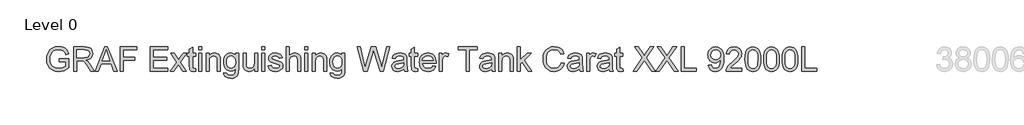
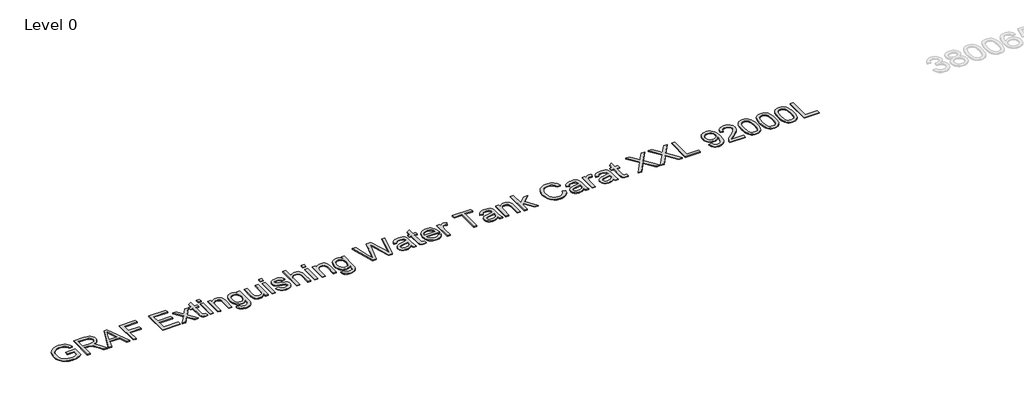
# One storey, part 27 of 37: 1 proxy.
"""IFC4 building model written with IfcOpenShell, lengths in millimetres."""

from ifc_helpers import new_model, si_unit, origin, origin_with_axes, place, context, project, spatial, polyline, outline, extrude, element, save

model = new_model("IFC4")

# Units and contexts
model_context = context("Model", 3, world=origin())
ifc_project = project(units=[si_unit("LENGTHUNIT", "METRE", prefix="MILLI")], contexts=[model_context])

# Site, building, storey
site = spatial("IfcSite", under=ifc_project)
building = spatial("IfcBuilding", under=site)
storey = spatial("IfcBuildingStorey", under=building, Name="Level 0", Elevation=0.0)

# Proxy
placement = place(None, origin())
element("IfcBuildingElementProxy", 1, Name="300mm Arial", ObjectType="300mm Arial", at=placement, inside=storey, context=model_context, shape_type="SweptSolid", body=[
    extrude(outline(polyline([(16759.0059613, -17583.2545597), (16759.0059613, -17545.5834434), (16881.4370893, -17545.5834434), (16881.4370893, -17658.2289103), (16851.6846329, -17678.9222726), (16820.9940775, -17693.7663111), (16789.4389993, -17702.7058436), (16757.0929749, -17705.6856877), (16714.8325307, -17700.949207), (16676.6371825, -17686.739765), (16644.9073605, -17663.5540022), (16622.0434945, -17631.8885595), (16608.2203285, -17593.9047435), (16603.6126065, -17551.7638609), (16608.2019344, -17509.3194757), (16621.9699181, -17469.8365406), (16644.3463404, -17436.717964), (16674.7609844, -17413.3666543), (16711.8067013, -17399.5158972), (16754.0763425, -17394.8989782), (16785.1071888, -17397.5753197), (16813.0110382, -17405.6043443), (16836.5095006, -17418.4066377), (16854.3241862, -17435.4027859), (16867.5035587, -17457.4113262), (16877.0960817, -17485.2507962), (16842.3680214, -17495.0364573), (16834.6149083, -17475.1800266), (16825.1879322, -17460.1980323), (16812.7167326, -17448.9040551), (16795.830949, -17440.1116754), (16775.6986068, -17434.4554897), (16753.4877313, -17432.5700945), (16727.4876713, -17434.6026425), (16705.2584018, -17440.7002866), (16686.8826961, -17450.0996716), (16672.4433278, -17462.0374423), (16653.0559467, -17491.0633317), (16644.2267788, -17519.50061), (16641.2837228, -17550.2187566), (16644.824587, -17586.2436009), (16655.4471796, -17615.8856927), (16672.8296039, -17638.9334997), (16696.6499631, -17655.1754898), (16724.5262213, -17664.804801), (16754.0763425, -17668.0145714), (16780.168373, -17665.5957473), (16805.6166101, -17658.3392749), (16827.7171209, -17648.3420817), (16843.765973, -17637.701095), (16843.765973, -17583.2545597), (16759.0059613, -17583.2545597)])), origin_with_axes(), (0.0, 0.0, 1.0), 10.0),
    extrude(outline(polyline([(16942.6526533, -17700.9767982), (16942.6526533, -17399.6078677), (17072.5149976, -17399.6078677), (17107.4178018, -17401.6404158), (17132.8108566, -17407.7380598), (17151.3705032, -17418.9952489), (17165.7730833, -17436.5064318), (17175.0161185, -17458.2206666), (17178.0971302, -17482.087011), (17172.9927675, -17511.7750881), (17157.6796794, -17536.3863935), (17146.0799003, -17546.4157764), (17131.6980135, -17554.4310054), (17094.5879173, -17564.4190016), (17115.9986494, -17580.532233), (17146.532855, -17619.3069952), (17196.7855355, -17700.9767982), (17153.0075781, -17700.9767982), (17113.7913574, -17638.5104354), (17085.4644438, -17597.1604991), (17065.5620278, -17577.6259652), (17047.6461747, -17570.4522663), (17025.7939842, -17569.1278911), (16980.3237696, -17569.1278911), (16980.3237696, -17700.9767982), (16942.6526533, -17700.9767982)]), holes=[polyline([(16980.3237696, -17531.4567748), (17064.6423229, -17531.4567748), (17088.8581552, -17530.1232026), (17107.6477281, -17526.1224859), (17121.7927908, -17519.1879103), (17132.0750926, -17509.0527613), (17138.3382835, -17496.7930938), (17140.4260139, -17483.4849626), (17136.4436913, -17465.109257), (17124.4967235, -17450.3020067), (17103.941317, -17440.5347397), (17074.1336783, -17437.278984), (16980.3237696, -17437.278984), (16980.3237696, -17531.4567748)])]), origin_with_axes(), (0.0, 0.0, 1.0), 10.0),
    extrude(outline(polyline([(17208.9256414, -17700.9767982), (17329.2230538, -17399.6078677), (17361.3023638, -17399.6078677), (17481.5997762, -17700.9767982), (17441.7949443, -17700.9767982), (17407.2876132, -17606.7990074), (17283.164228, -17606.7990074), (17248.7304732, -17700.9767982), (17208.9256414, -17700.9767982)]), holes=[polyline([(17296.996591, -17569.1278911), (17393.5288265, -17569.1278911), (17366.3791353, -17495.0364573), (17345.2627088, -17437.278984), (17326.500727, -17488.5617342), (17296.996591, -17569.1278911)])]), origin_with_axes(), (0.0, 0.0, 1.0), 10.0),
    extrude(outline(polyline([(17521.8460665, -17700.9767982), (17521.8460665, -17399.6078677), (17724.3283166, -17399.6078677), (17724.3283166, -17437.278984), (17559.5171828, -17437.278984), (17559.5171828, -17526.7478853), (17700.7838689, -17526.7478853), (17700.7838689, -17564.4190016), (17559.5171828, -17564.4190016), (17559.5171828, -17700.9767982), (17521.8460665, -17700.9767982)])), origin_with_axes(), (0.0, 0.0, 1.0), 10.0),
    extrude(outline(polyline([(17893.84834, -17700.9767982), (17893.84834, -17399.6078677), (18110.4572587, -17399.6078677), (18110.4572587, -17437.278984), (17931.5194563, -17437.278984), (17931.5194563, -17526.7478853), (18101.0394797, -17526.7478853), (18101.0394797, -17564.4190016), (17931.5194563, -17564.4190016), (17931.5194563, -17663.3056819), (18115.1661483, -17663.3056819), (18115.1661483, -17700.9767982), (17893.84834, -17700.9767982)])), origin_with_axes(), (0.0, 0.0, 1.0), 10.0),
    extrude(outline(polyline([(18143.4194855, -17700.9767982), (18223.9120661, -17589.7292828), (18148.1283751, -17479.6589899), (18193.4514369, -17479.6589899), (18230.0189072, -17532.6339972), (18247.0886318, -17557.6499729), (18261.877488, -17537.1957339), (18303.5217298, -17479.6589899), (18348.8447916, -17479.6589899), (18269.2351279, -17589.7292828), (18345.9017357, -17700.9767982), (18300.5786739, -17700.9767982), (18254.4462717, -17634.0958515), (18245.9849858, -17621.8821692), (18188.7425473, -17700.9767982), (18143.4194855, -17700.9767982)])), origin_with_axes(), (0.0, 0.0, 1.0), 10.0),
    extrude(outline(polyline([(18458.9150846, -17669.5596758), (18463.6239741, -17702.0804442), (18435.4442133, -17705.6856877), (18417.3628132, -17704.1221892), (18403.8799381, -17699.4316938), (18394.3517944, -17692.2028126), (18388.1345887, -17683.0241568), (18384.7132861, -17667.2604133), (18383.572852, -17640.276269), (18383.572852, -17517.3301062), (18355.3195147, -17517.3301062), (18355.3195147, -17479.6589899), (18383.572852, -17479.6589899), (18383.572852, -17425.8746422), (18421.2439683, -17403.7281461), (18421.2439683, -17479.6589899), (18458.9150846, -17479.6589899), (18458.9150846, -17517.3301062), (18421.2439683, -17517.3301062), (18421.2439683, -17639.172623), (18423.230531, -17658.5967923), (18429.668466, -17665.4761856), (18442.5075476, -17668.0145714), (18458.9150846, -17669.5596758)])), origin_with_axes(), (0.0, 0.0, 1.0), 10.0),
    extrude(outline(polyline([(18496.5862009, -17437.278984), (18496.5862009, -17399.6078677), (18534.2573172, -17399.6078677), (18534.2573172, -17437.278984), (18496.5862009, -17437.278984)])), origin_with_axes(), (0.0, 0.0, 1.0), 10.0),
    extrude(outline(polyline([(18496.5862009, -17700.9767982), (18496.5862009, -17479.6589899), (18534.2573172, -17479.6589899), (18534.2573172, -17700.9767982), (18496.5862009, -17700.9767982)])), origin_with_axes(), (0.0, 0.0, 1.0), 10.0),
    extrude(outline(polyline([(18590.7639916, -17700.9767982), (18590.7639916, -17479.6589899), (18628.435108, -17479.6589899), (18628.435108, -17510.5610775), (18641.5225099, -17494.981275), (18657.2402682, -17483.8528446), (18675.5883827, -17477.1757864), (18696.5668535, -17474.9501003), (18715.1356972, -17476.7435251), (18732.1410424, -17482.1237992), (18746.3228933, -17490.4195382), (18756.4212541, -17500.9593574), (18767.7152313, -17528.6608716), (18769.7017941, -17565.0811892), (18769.7017941, -17700.9767982), (18732.0306778, -17700.9767982), (18732.0306778, -17570.1579607), (18727.6896703, -17536.8278519), (18721.6839967, -17526.9042351), (18712.3489911, -17519.2063044), (18700.3836292, -17514.2674886), (18686.4868868, -17512.6212166), (18664.4231641, -17516.3184307), (18645.6151971, -17527.4100729), (18638.0989081, -17536.4645685), (18632.7301302, -17548.8391991), (18628.435108, -17583.5488653), (18628.435108, -17700.9767982), (18590.7639916, -17700.9767982)])), origin_with_axes(), (0.0, 0.0, 1.0), 10.0),
    extrude(outline(polyline([(18812.0817999, -17719.8123563), (18849.7529163, -17724.5212459), (18853.9099828, -17736.2934697), (18861.9665985, -17744.3868736), (18877.8039184, -17750.6776557), (18898.5340688, -17752.7745831), (18920.6437767, -17750.4017442), (18937.0881019, -17743.2832276), (18948.4924438, -17731.8788858), (18955.4822017, -17716.6485712), (18958.0573756, -17672.7234609), (18945.5217966, -17685.084296), (18931.5330838, -17693.9134639), (18916.091237, -17699.2109646), (18899.1962564, -17700.9767982), (18878.5419816, -17698.9212575), (18860.3571148, -17692.7546356), (18844.6416558, -17682.4769323), (18831.3956047, -17668.0881478), (18820.8856759, -17650.8252852), (18813.378584, -17631.9253477), (18808.8743288, -17611.3883353), (18807.3729104, -17589.214248), (18810.067646, -17558.7996041), (18818.1518529, -17530.8313754), (18831.3404224, -17507.1305779), (18849.3482461, -17489.5182274), (18871.5591215, -17478.5921321), (18897.3568464, -17474.9501003), (18914.9737955, -17477.0102395), (18930.9628667, -17483.190657), (18945.3240601, -17493.4913529), (18958.0573756, -17507.9123271), (18958.0573756, -17479.6589899), (18995.7284919, -17479.6589899), (18995.7284919, -17670.7368982), (18993.153318, -17714.8551464), (18985.4277961, -17743.908627), (18972.1196649, -17763.1764465), (18952.7966631, -17777.9377116), (18927.881855, -17787.3187024), (18897.7983048, -17790.4456994), (18862.7483477, -17786.0403125), (18835.148001, -17772.8241518), (18824.7530354, -17762.9028343), (18817.44368, -17750.7604292), (18813.2199349, -17736.3969365), (18812.0817999, -17719.8123563)]), holes=[polyline([(18845.0440267, -17586.6390741), (18849.0631375, -17621.1923905), (18861.1204699, -17644.9483703), (18879.2478552, -17658.716354), (18901.4771248, -17663.3056819), (18923.5408474, -17658.7439451), (18941.7602032, -17645.0587349), (18953.9830825, -17621.6062577), (18958.0573756, -17587.7427201), (18953.8635209, -17555.0839959), (18941.2819567, -17531.5671394), (18922.7958864, -17517.3576973), (18900.8885136, -17512.6212166), (18879.3766139, -17517.2841209), (18861.3411991, -17531.2728338), (18849.1183198, -17554.4402024), (18845.0440267, -17586.6390741)])]), origin_with_axes(), (0.0, 0.0, 1.0), 10.0),
    extrude(outline(polyline([(19193.5018525, -17700.9767982), (19193.5018525, -17662.9377999), (19179.8718246, -17681.6400008), (19163.9977165, -17694.9987158), (19145.8795283, -17703.0139447), (19125.5172598, -17705.6856877), (19107.1691453, -17703.8094895), (19090.0902237, -17698.180895), (19075.76122, -17689.7196091), (19065.6628592, -17679.3453369), (19054.4424584, -17651.6070344), (19052.2351664, -17616.5846685), (19052.2351664, -17479.6589899), (19089.9062827, -17479.6589899), (19089.9062827, -17598.8527563), (19092.1871511, -17637.2596366), (19097.6777899, -17650.0711271), (19107.0863719, -17659.8108029), (19119.7874978, -17665.9636293), (19135.1557681, -17668.0145714), (19151.4069552, -17665.917644), (19166.6096787, -17659.6268619), (19179.1452577, -17649.7216392), (19187.3950114, -17636.78139), (19191.9751423, -17619.0586749), (19193.5018525, -17594.8060544), (19193.5018525, -17479.6589899), (19231.1729689, -17479.6589899), (19231.1729689, -17700.9767982), (19193.5018525, -17700.9767982)])), origin_with_axes(), (0.0, 0.0, 1.0), 10.0),
    extrude(outline(polyline([(19282.9707538, -17437.278984), (19282.9707538, -17399.6078677), (19320.6418701, -17399.6078677), (19320.6418701, -17437.278984), (19282.9707538, -17437.278984)])), origin_with_axes(), (0.0, 0.0, 1.0), 10.0),
    extrude(outline(polyline([(19282.9707538, -17700.9767982), (19282.9707538, -17479.6589899), (19320.6418701, -17479.6589899), (19320.6418701, -17700.9767982), (19282.9707538, -17700.9767982)])), origin_with_axes(), (0.0, 0.0, 1.0), 10.0),
    extrude(outline(polyline([(19363.0218759, -17635.0523446), (19400.6929922, -17630.3434551), (19406.6342865, -17646.4566865), (19418.1305988, -17658.3024867), (19435.2555057, -17665.5865502), (19458.0825835, -17668.0145714), (19480.6337498, -17665.7888853), (19496.4894638, -17659.1118271), (19505.8704547, -17649.4365307), (19508.9974516, -17638.2161298), (19505.8520606, -17628.6144097), (19496.4158874, -17621.293558), (19457.6411251, -17610.5514038), (19400.9137214, -17592.1205158), (19386.5571266, -17582.8590866), (19376.1552632, -17570.5994191), (19369.8368899, -17556.1232626), (19367.7307655, -17540.2123663), (19369.4230226, -17525.6166481), (19374.4997942, -17512.1429701), (19382.5012276, -17500.324761), (19392.9674703, -17490.6954497), (19416.9165882, -17479.5486253), (19449.326992, -17474.9501003), (19473.846327, -17476.7987074), (19495.1650886, -17482.3445284), (19512.3083896, -17491.0449376), (19524.3013426, -17502.357309), (19532.2475937, -17517.118574), (19537.2507888, -17536.1656643), (19499.5796725, -17540.8745539), (19494.8247977, -17529.0195566), (19485.4162157, -17520.0892211), (19471.261956, -17514.4882178), (19452.270048, -17512.6212166), (19430.6385866, -17514.4054443), (19416.2176124, -17519.7581274), (19408.1058144, -17527.4836493), (19405.4018818, -17536.3863935), (19409.8900421, -17547.349277), (19423.9431343, -17555.6634101), (19456.3903263, -17563.6832376), (19511.6829902, -17581.4151497), (19526.2879054, -17589.8948297), (19537.3611534, -17601.5015067), (19544.3417143, -17616.2719688), (19546.6685679, -17634.2430043), (19543.9370441, -17652.821045), (19535.7424727, -17670.2954398), (19522.3975533, -17685.2958281), (19504.2149857, -17696.4518496), (19482.2524306, -17703.3772282), (19457.5675487, -17705.6856877), (19419.5837327, -17701.2343156), (19391.8638243, -17687.8801992), (19373.35936, -17665.7704912), (19363.0218759, -17635.0523446)])), origin_with_axes(), (0.0, 0.0, 1.0), 10.0),
    extrude(outline(polyline([(19589.0485738, -17700.9767982), (19589.0485738, -17399.6078677), (19626.7196901, -17399.6078677), (19626.7196901, -17510.4139247), (19640.5566516, -17494.8985015), (19656.0950674, -17483.8160564), (19673.3349374, -17477.1665894), (19692.2762616, -17474.9501003), (19715.029763, -17477.3689245), (19734.5826911, -17484.6253968), (19749.9785526, -17496.1493003), (19760.2608543, -17511.3704179), (19766.0549957, -17532.2845093), (19767.9863762, -17560.8873344), (19767.9863762, -17700.9767982), (19730.3152599, -17700.9767982), (19730.3152599, -17564.7868836), (19727.3170216, -17541.2056477), (19718.3223069, -17525.0556281), (19703.8277563, -17515.7298195), (19684.3300105, -17512.6212166), (19668.4099172, -17514.718144), (19653.4647111, -17521.0089261), (19641.085482, -17530.8865577), (19632.8633194, -17543.7440334), (19628.2555974, -17560.8321521), (19626.7196901, -17583.4017125), (19626.7196901, -17700.9767982), (19589.0485738, -17700.9767982)])), origin_with_axes(), (0.0, 0.0, 1.0), 10.0),
    extrude(outline(polyline([(19819.7841611, -17437.278984), (19819.7841611, -17399.6078677), (19857.4552774, -17399.6078677), (19857.4552774, -17437.278984), (19819.7841611, -17437.278984)])), origin_with_axes(), (0.0, 0.0, 1.0), 10.0),
    extrude(outline(polyline([(19819.7841611, -17700.9767982), (19819.7841611, -17479.6589899), (19857.4552774, -17479.6589899), (19857.4552774, -17700.9767982), (19819.7841611, -17700.9767982)])), origin_with_axes(), (0.0, 0.0, 1.0), 10.0),
    extrude(outline(polyline([(19913.9619519, -17700.9767982), (19913.9619519, -17479.6589899), (19951.6330682, -17479.6589899), (19951.6330682, -17510.5610775), (19964.7204702, -17494.981275), (19980.4382284, -17483.8528446), (19998.7863429, -17477.1757864), (20019.7648137, -17474.9501003), (20038.3336574, -17476.7435251), (20055.3390026, -17482.1237992), (20069.5208536, -17490.4195382), (20079.6192143, -17500.9593574), (20090.9131916, -17528.6608716), (20092.8997544, -17565.0811892), (20092.8997544, -17700.9767982), (20055.228638, -17700.9767982), (20055.228638, -17570.1579607), (20050.8876305, -17536.8278519), (20044.8819569, -17526.9042351), (20035.5469513, -17519.2063044), (20023.5815894, -17514.2674886), (20009.684847, -17512.6212166), (19987.6211244, -17516.3184307), (19968.8131574, -17527.4100729), (19961.2968684, -17536.4645685), (19955.9280905, -17548.8391991), (19951.6330682, -17583.5488653), (19951.6330682, -17700.9767982), (19913.9619519, -17700.9767982)])), origin_with_axes(), (0.0, 0.0, 1.0), 10.0),
    extrude(outline(polyline([(20135.2797602, -17719.8123563), (20172.9508765, -17724.5212459), (20177.1079431, -17736.2934697), (20185.1645587, -17744.3868736), (20201.0018786, -17750.6776557), (20221.7320291, -17752.7745831), (20243.841737, -17750.4017442), (20260.2860622, -17743.2832276), (20271.690404, -17731.8788858), (20278.6801619, -17716.6485712), (20281.2553359, -17672.7234609), (20268.7197569, -17685.084296), (20254.731044, -17693.9134639), (20239.2891973, -17699.2109646), (20222.3942167, -17700.9767982), (20201.7399419, -17698.9212575), (20183.555075, -17692.7546356), (20167.839616, -17682.4769323), (20154.5935649, -17668.0881478), (20144.0836362, -17650.8252852), (20136.5765442, -17631.9253477), (20132.0722891, -17611.3883353), (20130.5708707, -17589.214248), (20133.2656063, -17558.7996041), (20141.3498131, -17530.8313754), (20154.5383826, -17507.1305779), (20172.5462063, -17489.5182274), (20194.7570818, -17478.5921321), (20220.5548067, -17474.9501003), (20238.1717557, -17477.0102395), (20254.1608269, -17483.190657), (20268.5220203, -17493.4913529), (20281.2553359, -17507.9123271), (20281.2553359, -17479.6589899), (20318.9264522, -17479.6589899), (20318.9264522, -17670.7368982), (20316.3512782, -17714.8551464), (20308.6257563, -17743.908627), (20295.3176252, -17763.1764465), (20275.9946234, -17777.9377116), (20251.0798152, -17787.3187024), (20220.9962651, -17790.4456994), (20185.946308, -17786.0403125), (20158.3459613, -17772.8241518), (20147.9509957, -17762.9028343), (20140.6416403, -17750.7604292), (20136.4178951, -17736.3969365), (20135.2797602, -17719.8123563)]), holes=[polyline([(20168.241987, -17586.6390741), (20172.2610978, -17621.1923905), (20184.3184302, -17644.9483703), (20202.4458155, -17658.716354), (20224.675085, -17663.3056819), (20246.7388077, -17658.7439451), (20264.9581635, -17645.0587349), (20277.1810428, -17621.6062577), (20281.2553359, -17587.7427201), (20277.0614811, -17555.0839959), (20264.4799169, -17531.5671394), (20245.9938466, -17517.3576973), (20224.0864738, -17512.6212166), (20202.5745742, -17517.2841209), (20184.5391594, -17531.2728338), (20172.3162801, -17554.4402024), (20168.241987, -17586.6390741)])]), origin_with_axes(), (0.0, 0.0, 1.0), 10.0),
    extrude(outline(polyline([(20551.7957551, -17700.9767982), (20469.6109174, -17399.6078677), (20508.4592561, -17399.6078677), (20556.1367627, -17597.6755339), (20570.8520425, -17658.8175215), (20586.5973919, -17604.7388682), (20646.3414279, -17399.6078677), (20702.3330676, -17399.6078677), (20745.743143, -17548.3057702), (20764.3395779, -17603.4880695), (20778.0431822, -17658.8175215), (20792.3170036, -17599.4413675), (20840.4359686, -17399.6078677), (20879.2843072, -17399.6078677), (20797.0258931, -17700.9767982), (20756.7796029, -17700.9767982), (20684.527579, -17468.4753772), (20674.4476123, -17436.0281853), (20663.1168469, -17475.0972531), (20597.2659697, -17700.9767982), (20551.7957551, -17700.9767982)])), origin_with_axes(), (0.0, 0.0, 1.0), 10.0),
    extrude(outline(polyline([(21053.5132202, -17672.7234609), (21035.5145935, -17688.1561106), (21016.982538, -17698.2544714), (20997.4939893, -17703.8278836), (20976.6258832, -17705.6856877), (20945.1443814, -17701.2159215), (20921.9218305, -17687.8066228), (20907.6020238, -17667.4443543), (20902.8287549, -17642.115679), (20904.6313767, -17626.4990883), (20910.039242, -17612.3172373), (20918.3809663, -17600.1771315), (20928.9851648, -17590.685776), (20955.3623038, -17578.324941), (20987.9566486, -17572.6595583), (21026.4738935, -17566.6998699), (21053.292491, -17559.710112), (21053.5132202, -17551.3224025), (21050.9196521, -17534.5101954), (21043.1389479, -17523.5105237), (21025.7381295, -17515.3435434), (21001.494706, -17512.6212166), (20979.0539043, -17514.4330355), (20963.3821313, -17519.868492), (20952.6951594, -17529.9208675), (20945.2087608, -17545.5834434), (20907.5376445, -17540.8745539), (20914.0767469, -17520.2731621), (20923.8348169, -17504.0863544), (20937.7223622, -17491.7071252), (20956.6498908, -17482.5284694), (20979.7988654, -17476.8446926), (21006.3507484, -17474.9501003), (21031.8173795, -17476.6239634), (21052.004904, -17481.6455527), (21067.2260215, -17489.1963306), (21077.7934318, -17498.4577598), (21084.8015838, -17509.9080869), (21089.3449265, -17524.0255585), (21091.1843365, -17556.9877853), (21091.1843365, -17603.8559515), (21093.0973228, -17669.3021584), (21100.6021155, -17700.9767982), (21062.9309992, -17700.9767982), (21053.5132202, -17672.7234609)]), holes=[polyline([(21053.5132202, -17597.3812283), (20992.7391146, -17608.932723), (20960.3287108, -17615.0395641), (20945.6502192, -17624.972378), (20940.4998712, -17639.4669286), (20943.3049715, -17650.6689353), (20951.7202721, -17659.8475911), (20965.5618322, -17665.9728263), (20984.6457107, -17668.0145714), (21004.8792204, -17665.7612942), (21022.7582854, -17659.0014625), (21037.252836, -17649.0410575), (21047.3328026, -17637.1860602), (21051.8025689, -17624.972378), (21053.292491, -17608.0498062), (21053.5132202, -17597.3812283)])]), origin_with_axes(), (0.0, 0.0, 1.0), 10.0),
    extrude(outline(polyline([(21223.0332435, -17669.5596758), (21227.7421331, -17702.0804442), (21199.5623722, -17705.6856877), (21181.4809722, -17704.1221892), (21167.9980971, -17699.4316938), (21158.4699534, -17692.2028126), (21152.2527477, -17683.0241568), (21148.8314451, -17667.2604133), (21147.6910109, -17640.276269), (21147.6910109, -17517.3301062), (21119.4376737, -17517.3301062), (21119.4376737, -17479.6589899), (21147.6910109, -17479.6589899), (21147.6910109, -17425.8746422), (21185.3621272, -17403.7281461), (21185.3621272, -17479.6589899), (21223.0332435, -17479.6589899), (21223.0332435, -17517.3301062), (21185.3621272, -17517.3301062), (21185.3621272, -17639.172623), (21187.34869, -17658.5967923), (21193.7866249, -17665.4761856), (21206.6257066, -17668.0145714), (21223.0332435, -17669.5596758)])), origin_with_axes(), (0.0, 0.0, 1.0), 10.0),
    extrude(outline(polyline([(21415.6562562, -17635.0523446), (21452.5916085, -17639.7612342), (21439.2834774, -17667.5915071), (21418.0474892, -17688.3952339), (21389.3618906, -17701.3630743), (21353.7049282, -17705.6856877), (21330.330626, -17703.8209859), (21309.5039065, -17698.2268803), (21291.2247699, -17688.9033709), (21275.493216, -17675.8504579), (21262.8426739, -17659.4314246), (21253.8065724, -17640.0095545), (21248.3849115, -17617.5848477), (21246.5776912, -17592.157304), (21248.4033056, -17565.8675369), (21253.8801488, -17542.6955698), (21263.0082208, -17522.6414025), (21275.7875216, -17505.7050351), (21291.4776887, -17492.2497512), (21309.3383596, -17482.638834), (21329.3695342, -17476.8722838), (21351.5712127, -17474.9501003), (21373.0578204, -17476.8676852), (21392.4888876, -17482.6204399), (21409.8644141, -17492.2083644), (21425.1843999, -17505.6314587), (21437.6900885, -17522.5310379), (21446.6227232, -17542.548417), (21451.982304, -17565.6835959), (21453.7688309, -17591.9365748), (21453.5481017, -17602.0901179), (21284.2488075, -17602.0901179), (21290.7695159, -17630.2882728), (21305.9170571, -17651.0184232), (21327.7784446, -17663.7655344), (21354.4406922, -17668.0145714), (21374.490261, -17666.0464027), (21391.3760445, -17660.1418967), (21405.098043, -17649.9331713), (21415.6562562, -17635.0523446)]), holes=[polyline([(21284.2488075, -17564.4190016), (21416.0977146, -17564.4190016), (21411.002549, -17544.5165856), (21401.0145528, -17530.2795524), (21379.0519977, -17517.0358006), (21351.4240599, -17512.6212166), (21326.0310051, -17516.1436868), (21305.0341403, -17526.7110971), (21290.4384221, -17543.1830134), (21284.2488075, -17564.4190016)])]), origin_with_axes(), (0.0, 0.0, 1.0), 10.0),
    extrude(outline(polyline([(21491.4399472, -17700.9767982), (21491.4399472, -17479.6589899), (21524.402174, -17479.6589899), (21524.402174, -17512.4004875), (21536.579068, -17493.4177765), (21547.7994689, -17482.2341638), (21559.0566579, -17476.7711162), (21571.3439166, -17474.9501003), (21590.1058983, -17477.8563681), (21609.1621857, -17486.5751714), (21596.5806214, -17520.3467385), (21583.3368696, -17514.5525971), (21570.0931178, -17512.6212166), (21558.8451258, -17514.4790207), (21548.7927503, -17520.052433), (21540.6717552, -17528.918389), (21535.2179046, -17540.6538247), (21530.6377738, -17561.6966748), (21529.1110635, -17584.6525113), (21529.1110635, -17700.9767982), (21491.4399472, -17700.9767982)])), origin_with_axes(), (0.0, 0.0, 1.0), 10.0),
    extrude(outline(polyline([(21830.479994, -17700.9767982), (21830.479994, -17437.278984), (21731.5933137, -17437.278984), (21731.5933137, -17399.6078677), (21967.0377906, -17399.6078677), (21967.0377906, -17437.278984), (21868.1511103, -17437.278984), (21868.1511103, -17700.9767982), (21830.479994, -17700.9767982)])), origin_with_axes(), (0.0, 0.0, 1.0), 10.0),
    extrude(outline(polyline([(22145.975593, -17672.7234609), (22127.9769664, -17688.1561106), (22109.4449109, -17698.2544714), (22089.9563622, -17703.8278836), (22069.088256, -17705.6856877), (22037.6067543, -17701.2159215), (22014.3842034, -17687.8066228), (22000.0643967, -17667.4443543), (21995.2911278, -17642.115679), (21997.0937496, -17626.4990883), (22002.5016149, -17612.3172373), (22010.8433392, -17600.1771315), (22021.4475377, -17590.685776), (22047.8246767, -17578.324941), (22080.4190215, -17572.6595583), (22118.9362664, -17566.6998699), (22145.7548638, -17559.710112), (22145.975593, -17551.3224025), (22143.382025, -17534.5101954), (22135.6013208, -17523.5105237), (22118.2005024, -17515.3435434), (22093.9570789, -17512.6212166), (22071.5162772, -17514.4330355), (22055.8445042, -17519.868492), (22045.1575323, -17529.9208675), (22037.6711337, -17545.5834434), (22000.0000174, -17540.8745539), (22006.5391198, -17520.2731621), (22016.2971897, -17504.0863544), (22030.1847351, -17491.7071252), (22049.1122637, -17482.5284694), (22072.2612383, -17476.8446926), (22098.8131213, -17474.9501003), (22124.2797524, -17476.6239634), (22144.4672769, -17481.6455527), (22159.6883944, -17489.1963306), (22170.2558047, -17498.4577598), (22177.2639567, -17509.9080869), (22181.8072994, -17524.0255585), (22183.6467093, -17556.9877853), (22183.6467093, -17603.8559515), (22185.5596957, -17669.3021584), (22193.0644884, -17700.9767982), (22155.3933721, -17700.9767982), (22145.975593, -17672.7234609)]), holes=[polyline([(22145.975593, -17597.3812283), (22085.2014874, -17608.932723), (22052.7910837, -17615.0395641), (22038.1125921, -17624.972378), (22032.9622441, -17639.4669286), (22035.7673443, -17650.6689353), (22044.182645, -17659.8475911), (22058.024205, -17665.9728263), (22077.1080835, -17668.0145714), (22097.3415933, -17665.7612942), (22115.2206582, -17659.0014625), (22129.7152089, -17649.0410575), (22139.7951755, -17637.1860602), (22144.2649418, -17624.972378), (22145.7548638, -17608.0498062), (22145.975593, -17597.3812283)])]), origin_with_axes(), (0.0, 0.0, 1.0), 10.0),
    extrude(outline(polyline([(22235.4444943, -17700.9767982), (22235.4444943, -17479.6589899), (22273.1156106, -17479.6589899), (22273.1156106, -17510.5610775), (22286.2030125, -17494.981275), (22301.9207708, -17483.8528446), (22320.2688853, -17477.1757864), (22341.2473561, -17474.9501003), (22359.8161998, -17476.7435251), (22376.821545, -17482.1237992), (22391.0033959, -17490.4195382), (22401.1017567, -17500.9593574), (22412.3957339, -17528.6608716), (22414.3822967, -17565.0811892), (22414.3822967, -17700.9767982), (22376.7111804, -17700.9767982), (22376.7111804, -17570.1579607), (22372.3701729, -17536.8278519), (22366.3644993, -17526.9042351), (22357.0294937, -17519.2063044), (22345.0641318, -17514.2674886), (22331.1673894, -17512.6212166), (22309.1036667, -17516.3184307), (22290.2956997, -17527.4100729), (22282.7794107, -17536.4645685), (22277.4106329, -17548.8391991), (22273.1156106, -17583.5488653), (22273.1156106, -17700.9767982), (22235.4444943, -17700.9767982)])), origin_with_axes(), (0.0, 0.0, 1.0), 10.0),
    extrude(outline(polyline([(22466.1800816, -17700.9767982), (22466.1800816, -17399.6078677), (22503.8511979, -17399.6078677), (22503.8511979, -17561.549522), (22588.316904, -17479.6589899), (22640.4089946, -17479.6589899), (22554.9132189, -17562.5795916), (22645.1178841, -17700.9767982), (22601.1191975, -17700.9767982), (22527.9106804, -17588.7727896), (22503.8511979, -17612.0965081), (22503.8511979, -17700.9767982), (22466.1800816, -17700.9767982)])), origin_with_axes(), (0.0, 0.0, 1.0), 10.0),
    extrude(outline(polyline([(23012.4112681, -17593.8495612), (23050.0823844, -17603.5616459), (23042.6281755, -17626.9888312), (23032.6999601, -17647.4591649), (23020.2977383, -17664.9726472), (23005.4215102, -17679.5292779), (22988.4069679, -17690.9727072), (22969.5898038, -17699.1465853), (22948.970018, -17704.0509121), (22926.5476104, -17705.6856877), (22882.8524264, -17700.7376749), (22848.1519572, -17685.8936364), (22821.554089, -17661.668607), (22802.1667078, -17628.5776215), (22790.3301046, -17589.6741005), (22786.3845702, -17548.0114646), (22790.8451394, -17504.0679603), (22804.226847, -17466.1209325), (22825.8307172, -17435.3751947), (22854.9577741, -17413.0355606), (22889.5018935, -17399.4331238), (22927.3569508, -17394.8989782), (22968.6609018, -17400.766696), (22986.629638, -17408.1013433), (23002.809548, -17418.3698495), (23016.9339174, -17431.3009016), (23028.7360316, -17446.6231867), (23045.3734948, -17484.4414558), (23007.7023785, -17493.4177765), (22994.6425677, -17465.9461885), (22976.8002909, -17447.1014333), (22953.954819, -17436.2029292), (22925.8854228, -17432.5700945), (22893.5302013, -17436.5984023), (22866.9507272, -17448.6833259), (22846.7815968, -17467.5556722), (22833.6574066, -17491.9462485), (22826.4561166, -17519.5190041), (22824.0556865, -17547.9378882), (22826.897575, -17582.7395249), (22835.4232402, -17612.8322721), (22849.954579, -17637.0664986), (22870.8134881, -17654.292573), (22895.8202668, -17664.5840718), (22922.7952141, -17668.0145714), (22954.2399276, -17663.3424701), (22980.4423227, -17649.3261661), (23000.225177, -17626.1128122), (23012.4112681, -17593.8495612)])), origin_with_axes(), (0.0, 0.0, 1.0), 10.0),
    extrude(outline(polyline([(23238.4379659, -17672.7234609), (23220.4393393, -17688.1561106), (23201.9072838, -17698.2544714), (23182.4187351, -17703.8278836), (23161.5506289, -17705.6856877), (23130.0691272, -17701.2159215), (23106.8465762, -17687.8066228), (23092.5267696, -17667.4443543), (23087.7535007, -17642.115679), (23089.5561225, -17626.4990883), (23094.9639878, -17612.3172373), (23103.305712, -17600.1771315), (23113.9099105, -17590.685776), (23140.2870496, -17578.324941), (23172.8813944, -17572.6595583), (23211.3986393, -17566.6998699), (23238.2172367, -17559.710112), (23238.4379659, -17551.3224025), (23235.8443978, -17534.5101954), (23228.0636936, -17523.5105237), (23210.6628753, -17515.3435434), (23186.4194518, -17512.6212166), (23163.9786501, -17514.4330355), (23148.3068771, -17519.868492), (23137.6199051, -17529.9208675), (23130.1335065, -17545.5834434), (23092.4623902, -17540.8745539), (23099.0014927, -17520.2731621), (23108.7595626, -17504.0863544), (23122.6471079, -17491.7071252), (23141.5746366, -17482.5284694), (23164.7236111, -17476.8446926), (23191.2754941, -17474.9501003), (23216.7421252, -17476.6239634), (23236.9296497, -17481.6455527), (23252.1507673, -17489.1963306), (23262.7181776, -17498.4577598), (23269.7263296, -17509.9080869), (23274.2696722, -17524.0255585), (23276.1090822, -17556.9877853), (23276.1090822, -17603.8559515), (23278.0220686, -17669.3021584), (23285.5268613, -17700.9767982), (23247.855745, -17700.9767982), (23238.4379659, -17672.7234609)]), holes=[polyline([(23238.4379659, -17597.3812283), (23177.6638603, -17608.932723), (23145.2534565, -17615.0395641), (23130.5749649, -17624.972378), (23125.424617, -17639.4669286), (23128.2297172, -17650.6689353), (23136.6450178, -17659.8475911), (23150.4865779, -17665.9728263), (23169.5704564, -17668.0145714), (23189.8039662, -17665.7612942), (23207.6830311, -17659.0014625), (23222.1775817, -17649.0410575), (23232.2575484, -17637.1860602), (23236.7273146, -17624.972378), (23238.2172367, -17608.0498062), (23238.4379659, -17597.3812283)])]), origin_with_axes(), (0.0, 0.0, 1.0), 10.0),
    extrude(outline(polyline([(23327.9068671, -17700.9767982), (23327.9068671, -17479.6589899), (23360.8690939, -17479.6589899), (23360.8690939, -17512.4004875), (23373.0459879, -17493.4177765), (23384.2663888, -17482.2341638), (23395.5235779, -17476.7711162), (23407.8108365, -17474.9501003), (23426.5728182, -17477.8563681), (23445.6291056, -17486.5751714), (23433.0475414, -17520.3467385), (23419.8037895, -17514.5525971), (23406.5600377, -17512.6212166), (23395.3120457, -17514.4790207), (23385.2596702, -17520.052433), (23377.1386751, -17528.918389), (23371.6848246, -17540.6538247), (23367.1046937, -17561.6966748), (23365.5779834, -17584.6525113), (23365.5779834, -17700.9767982), (23327.9068671, -17700.9767982)])), origin_with_axes(), (0.0, 0.0, 1.0), 10.0),
    extrude(outline(polyline([(23610.4402394, -17672.7234609), (23592.4416128, -17688.1561106), (23573.9095573, -17698.2544714), (23554.4210086, -17703.8278836), (23533.5529024, -17705.6856877), (23502.0714007, -17701.2159215), (23478.8488498, -17687.8066228), (23464.5290431, -17667.4443543), (23459.7557742, -17642.115679), (23461.558396, -17626.4990883), (23466.9662613, -17612.3172373), (23475.3079856, -17600.1771315), (23485.9121841, -17590.685776), (23512.2893231, -17578.324941), (23544.8836679, -17572.6595583), (23583.4009128, -17566.6998699), (23610.2195102, -17559.710112), (23610.4402394, -17551.3224025), (23607.8466714, -17534.5101954), (23600.0659672, -17523.5105237), (23582.6651488, -17515.3435434), (23558.4217253, -17512.6212166), (23535.9809236, -17514.4330355), (23520.3091506, -17519.868492), (23509.6221787, -17529.9208675), (23502.1357801, -17545.5834434), (23464.4646638, -17540.8745539), (23471.0037662, -17520.2731621), (23480.7618361, -17504.0863544), (23494.6493815, -17491.7071252), (23513.5769101, -17482.5284694), (23536.7258847, -17476.8446926), (23563.2777677, -17474.9501003), (23588.7443988, -17476.6239634), (23608.9319233, -17481.6455527), (23624.1530408, -17489.1963306), (23634.7204511, -17498.4577598), (23641.7286031, -17509.9080869), (23646.2719458, -17524.0255585), (23648.1113557, -17556.9877853), (23648.1113557, -17603.8559515), (23650.0243421, -17669.3021584), (23657.5291348, -17700.9767982), (23619.8580185, -17700.9767982), (23610.4402394, -17672.7234609)]), holes=[polyline([(23610.4402394, -17597.3812283), (23549.6661338, -17608.932723), (23517.2557301, -17615.0395641), (23502.5772385, -17624.972378), (23497.4268905, -17639.4669286), (23500.2319907, -17650.6689353), (23508.6472914, -17659.8475911), (23522.4888514, -17665.9728263), (23541.5727299, -17668.0145714), (23561.8062397, -17665.7612942), (23579.6853046, -17659.0014625), (23594.1798552, -17649.0410575), (23604.2598219, -17637.1860602), (23608.7295882, -17624.972378), (23610.2195102, -17608.0498062), (23610.4402394, -17597.3812283)])]), origin_with_axes(), (0.0, 0.0, 1.0), 10.0),
    extrude(outline(polyline([(23779.9602628, -17669.5596758), (23784.6691524, -17702.0804442), (23756.4893915, -17705.6856877), (23738.4079915, -17704.1221892), (23724.9251163, -17699.4316938), (23715.3969727, -17692.2028126), (23709.1797669, -17683.0241568), (23705.7584644, -17667.2604133), (23704.6180302, -17640.276269), (23704.6180302, -17517.3301062), (23676.364693, -17517.3301062), (23676.364693, -17479.6589899), (23704.6180302, -17479.6589899), (23704.6180302, -17425.8746422), (23742.2891465, -17403.7281461), (23742.2891465, -17479.6589899), (23779.9602628, -17479.6589899), (23779.9602628, -17517.3301062), (23742.2891465, -17517.3301062), (23742.2891465, -17639.172623), (23744.2757093, -17658.5967923), (23750.7136442, -17665.4761856), (23763.5527258, -17668.0145714), (23779.9602628, -17669.5596758)])), origin_with_axes(), (0.0, 0.0, 1.0), 10.0),
    extrude(outline(polyline([(23907.1002803, -17700.9767982), (24023.2774144, -17536.7542755), (23925.9358385, -17399.6078677), (23971.1117475, -17399.6078677), (24025.9261648, -17476.7895103), (24044.3938409, -17506.8822575), (24066.0253023, -17476.2744755), (24120.2511084, -17399.6078677), (24166.089205, -17399.6078677), (24068.747629, -17537.1957339), (24184.9247631, -17700.9767982), (24139.7488541, -17700.9767982), (24062.3464823, -17591.789422), (24046.2332509, -17569.1278911), (24028.5013388, -17593.996714), (23952.9383769, -17700.9767982), (23907.1002803, -17700.9767982)])), origin_with_axes(), (0.0, 0.0, 1.0), 10.0),
    extrude(outline(polyline([(24189.6336526, -17700.9767982), (24305.8107867, -17536.7542755), (24208.4692108, -17399.6078677), (24253.6451198, -17399.6078677), (24308.4595371, -17476.7895103), (24326.9272132, -17506.8822575), (24348.5586746, -17476.2744755), (24402.7844806, -17399.6078677), (24448.6225772, -17399.6078677), (24351.2810013, -17537.1957339), (24467.4581354, -17700.9767982), (24422.2822264, -17700.9767982), (24344.8798546, -17591.789422), (24328.7666232, -17569.1278911), (24311.0347111, -17593.996714), (24235.4717492, -17700.9767982), (24189.6336526, -17700.9767982)])), origin_with_axes(), (0.0, 0.0, 1.0), 10.0),
    extrude(outline(polyline([(24505.1292517, -17700.9767982), (24505.1292517, -17399.6078677), (24542.800368, -17399.6078677), (24542.800368, -17663.3056819), (24693.4848332, -17663.3056819), (24693.4848332, -17700.9767982), (24505.1292517, -17700.9767982)])), origin_with_axes(), (0.0, 0.0, 1.0), 10.0),
    extrude(outline(polyline([(24844.1692985, -17625.6345656), (24881.8404148, -17620.925676), (24888.2783497, -17642.308817), (24898.7629865, -17656.867747), (24913.036808, -17665.2278653), (24930.8422965, -17668.0145714), (24946.8175722, -17666.2211467), (24961.3397139, -17660.8408725), (24973.4062434, -17652.4623601), (24982.0146821, -17641.6742206), (24994.3387289, -17608.932723), (24999.7833824, -17565.228342), (24999.5626532, -17557.8707021), (24986.5120394, -17573.7999924), (24969.4331178, -17586.4183449), (24949.558293, -17594.6405075), (24928.1199698, -17597.3812283), (24910.22481, -17595.7073653), (24893.7689885, -17590.685776), (24878.7525053, -17582.3164606), (24865.1753604, -17570.5994191), (24853.9250691, -17556.1462552), (24845.8891468, -17539.5685728), (24841.0675934, -17520.8663719), (24839.4604089, -17500.0396524), (24841.1457683, -17478.5185557), (24846.2018465, -17459.2047509), (24854.6286434, -17442.0982382), (24866.4261592, -17427.1990174), (24880.7620607, -17415.1278894), (24896.8040149, -17406.5056551), (24914.5520219, -17401.3323146), (24934.0060817, -17399.6078677), (24962.1030691, -17403.5442051), (24987.6800648, -17415.3532171), (25009.0724028, -17434.4462927), (25024.6154171, -17460.2348205), (25034.0791814, -17495.8825859), (25037.2337695, -17544.5533738), (25034.0883785, -17596.1580207), (25024.6522053, -17636.045626), (25009.0080235, -17666.0188116), (24987.2386064, -17687.8801992), (24960.2820532, -17701.2343156), (24929.0764629, -17705.6856877), (24896.8683943, -17700.4341722), (24871.1718369, -17684.6796258), (24853.2008014, -17659.4153298), (24844.1692985, -17625.6345656)]), holes=[polyline([(24999.5626532, -17499.1567356), (24995.4975572, -17473.6257252), (24983.302269, -17453.9808266), (24964.3747404, -17441.4544447), (24940.1129228, -17437.278984), (24914.9497943, -17441.7763414), (24894.789861, -17455.2684136), (24881.5461092, -17475.9157906), (24877.1315252, -17501.8790624), (24881.3069859, -17525.1567956), (24893.8333678, -17543.6336688), (24913.4966605, -17555.6910012), (24939.0828532, -17559.710112), (24963.1515328, -17555.6910012), (24982.5297168, -17543.6336688), (24995.3044191, -17524.4762139), (24999.5626532, -17499.1567356)])]), origin_with_axes(), (0.0, 0.0, 1.0), 10.0),
    extrude(outline(polyline([(25263.2604674, -17663.3056819), (25263.2604674, -17700.9767982), (25065.4871068, -17700.9767982), (25069.5338087, -17675.0043293), (25078.8228291, -17654.7064402), (25092.4160688, -17635.0155564), (25112.0793614, -17614.4049677), (25139.5785406, -17591.3479636), (25180.2295011, -17555.2403458), (25204.6200773, -17528.5872952), (25216.8153655, -17506.9558339), (25220.8804615, -17485.9129838), (25217.0452917, -17467.0498345), (25205.5397823, -17451.3688645), (25187.8538554, -17440.8014541), (25165.477433, -17437.278984), (25141.9789706, -17440.7186807), (25123.7228266, -17451.0377707), (25111.9414057, -17467.4269135), (25107.8671126, -17489.076769), (25070.1959963, -17484.3678794), (25079.3286668, -17447.9291678), (25087.8750254, -17433.3932305), (25099.0747329, -17421.3129054), (25112.6702719, -17411.8169514), (25128.404125, -17405.0341272), (25166.2867734, -17399.6078677), (25186.4765972, -17401.1161839), (25204.4453334, -17405.6411325), (25220.192982, -17413.1827134), (25233.7195432, -17423.7409266), (25244.5835583, -17436.534023), (25252.3435692, -17450.7802533), (25256.9995757, -17466.4796174), (25258.5515778, -17483.6321154), (25256.8777148, -17501.6491361), (25251.8561255, -17519.3534572), (25242.9441842, -17537.3612808), (25229.5992648, -17556.2888095), (25208.3264884, -17578.885961), (25175.6309761, -17607.9026534), (25132.2944771, -17644.1390299), (25115.2983289, -17663.3056819), (25263.2604674, -17663.3056819)])), origin_with_axes(), (0.0, 0.0, 1.0), 10.0),
    extrude(outline(polyline([(25300.9315837, -17552.7203541), (25303.6998957, -17504.4818275), (25312.0048317, -17466.0105679), (25325.7636183, -17436.717964), (25344.8934821, -17416.0154047), (25369.5323787, -17403.709752), (25399.818264, -17399.6078677), (25423.0316179, -17402.0358889), (25443.8169506, -17409.3199524), (25461.1993749, -17421.1749497), (25474.2040034, -17437.3157722), (25484.0264527, -17457.6044643), (25491.8623392, -17481.9030701), (25496.994293, -17512.7591724), (25498.7049443, -17552.7203541), (25495.9642234, -17600.6829692), (25487.7420608, -17639.0622584), (25474.0660477, -17668.3824534), (25454.9637751, -17689.1677861), (25430.2696961, -17701.5562123), (25399.818264, -17705.6856877), (25379.0697194, -17703.892263), (25360.6756197, -17698.5119888), (25344.6359647, -17689.5448652), (25330.9507545, -17676.9908921), (25317.8173673, -17654.2971715), (25308.4363764, -17626.0208417), (25302.8077818, -17592.1619025), (25300.9315837, -17552.7203541)]), holes=[polyline([(25338.6027, -17552.6467777), (25343.0172839, -17611.9033701), (25348.5355138, -17632.1713688), (25356.2610357, -17646.1991691), (25375.9795107, -17662.5607208), (25399.818264, -17668.0145714), (25423.6570173, -17662.5423267), (25443.3754922, -17646.1255927), (25451.1010141, -17632.0747997), (25456.619244, -17611.8113996), (25461.033828, -17552.6467777), (25456.7663968, -17494.7237576), (25451.4321079, -17474.5224375), (25443.9641034, -17460.1612441), (25424.2824167, -17442.9995491), (25399.3768056, -17437.278984), (25375.7955697, -17442.3189674), (25356.8496469, -17457.4389174), (25348.8666076, -17473.0739022), (25343.1644367, -17494.1535405), (25338.6027, -17552.6467777)])]), origin_with_axes(), (0.0, 0.0, 1.0), 10.0),
    extrude(outline(polyline([(25531.667171, -17552.7203541), (25534.4354831, -17504.4818275), (25542.7404191, -17466.0105679), (25556.4992057, -17436.717964), (25575.6290695, -17416.0154047), (25600.2679661, -17403.709752), (25630.5538514, -17399.6078677), (25653.7672052, -17402.0358889), (25674.552538, -17409.3199524), (25691.9349622, -17421.1749497), (25704.9395908, -17437.3157722), (25714.76204, -17457.6044643), (25722.5979265, -17481.9030701), (25727.7298804, -17512.7591724), (25729.4405317, -17552.7203541), (25726.6998108, -17600.6829692), (25718.4776482, -17639.0622584), (25704.801635, -17668.3824534), (25685.6993624, -17689.1677861), (25661.0052835, -17701.5562123), (25630.5538514, -17705.6856877), (25609.8053068, -17703.892263), (25591.4112071, -17698.5119888), (25575.3715521, -17689.5448652), (25561.6863419, -17676.9908921), (25548.5529546, -17654.2971715), (25539.1719637, -17626.0208417), (25533.5433692, -17592.1619025), (25531.667171, -17552.7203541)]), holes=[polyline([(25569.3382874, -17552.6467777), (25573.7528713, -17611.9033701), (25579.2711012, -17632.1713688), (25586.9966231, -17646.1991691), (25606.7150981, -17662.5607208), (25630.5538514, -17668.0145714), (25654.3926046, -17662.5423267), (25674.1110796, -17646.1255927), (25681.8366015, -17632.0747997), (25687.3548314, -17611.8113996), (25691.7694153, -17552.6467777), (25687.5019842, -17494.7237576), (25682.1676953, -17474.5224375), (25674.6996908, -17460.1612441), (25655.018004, -17442.9995491), (25630.112393, -17437.278984), (25606.5311571, -17442.3189674), (25587.5852343, -17457.4389174), (25579.602195, -17473.0739022), (25573.9000241, -17494.1535405), (25569.3382874, -17552.6467777)])]), origin_with_axes(), (0.0, 0.0, 1.0), 10.0),
    extrude(outline(polyline([(25762.4027584, -17552.7203541), (25765.1710704, -17504.4818275), (25773.4760065, -17466.0105679), (25787.2347931, -17436.717964), (25806.3646568, -17416.0154047), (25831.0035535, -17403.709752), (25861.2894387, -17399.6078677), (25884.5027926, -17402.0358889), (25905.2881253, -17409.3199524), (25922.6705496, -17421.1749497), (25935.6751782, -17437.3157722), (25945.4976274, -17457.6044643), (25953.3335139, -17481.9030701), (25958.4654678, -17512.7591724), (25960.176119, -17552.7203541), (25957.4353982, -17600.6829692), (25949.2132356, -17639.0622584), (25935.5372224, -17668.3824534), (25916.4349498, -17689.1677861), (25891.7408709, -17701.5562123), (25861.2894387, -17705.6856877), (25840.5408942, -17703.892263), (25822.1467944, -17698.5119888), (25806.1071394, -17689.5448652), (25792.4219292, -17676.9908921), (25779.288542, -17654.2971715), (25769.9075511, -17626.0208417), (25764.2789566, -17592.1619025), (25762.4027584, -17552.7203541)]), holes=[polyline([(25800.0738747, -17552.6467777), (25804.4884587, -17611.9033701), (25810.0066886, -17632.1713688), (25817.7322105, -17646.1991691), (25837.4506854, -17662.5607208), (25861.2894387, -17668.0145714), (25885.128192, -17662.5423267), (25904.846667, -17646.1255927), (25912.5721889, -17632.0747997), (25918.0904188, -17611.8113996), (25922.5050027, -17552.6467777), (25918.2375716, -17494.7237576), (25912.9032826, -17474.5224375), (25905.4352781, -17460.1612441), (25885.7535914, -17442.9995491), (25860.8479803, -17437.278984), (25837.2667444, -17442.3189674), (25818.3208217, -17457.4389174), (25810.3377824, -17473.0739022), (25804.6356115, -17494.1535405), (25800.0738747, -17552.6467777)])]), origin_with_axes(), (0.0, 0.0, 1.0), 10.0),
    extrude(outline(polyline([(26007.2650144, -17700.9767982), (26007.2650144, -17399.6078677), (26044.9361307, -17399.6078677), (26044.9361307, -17663.3056819), (26195.6205959, -17663.3056819), (26195.6205959, -17700.9767982), (26007.2650144, -17700.9767982)])), origin_with_axes(), (0.0, 0.0, 1.0), 10.0),
])

save(model, "model.ifc")
